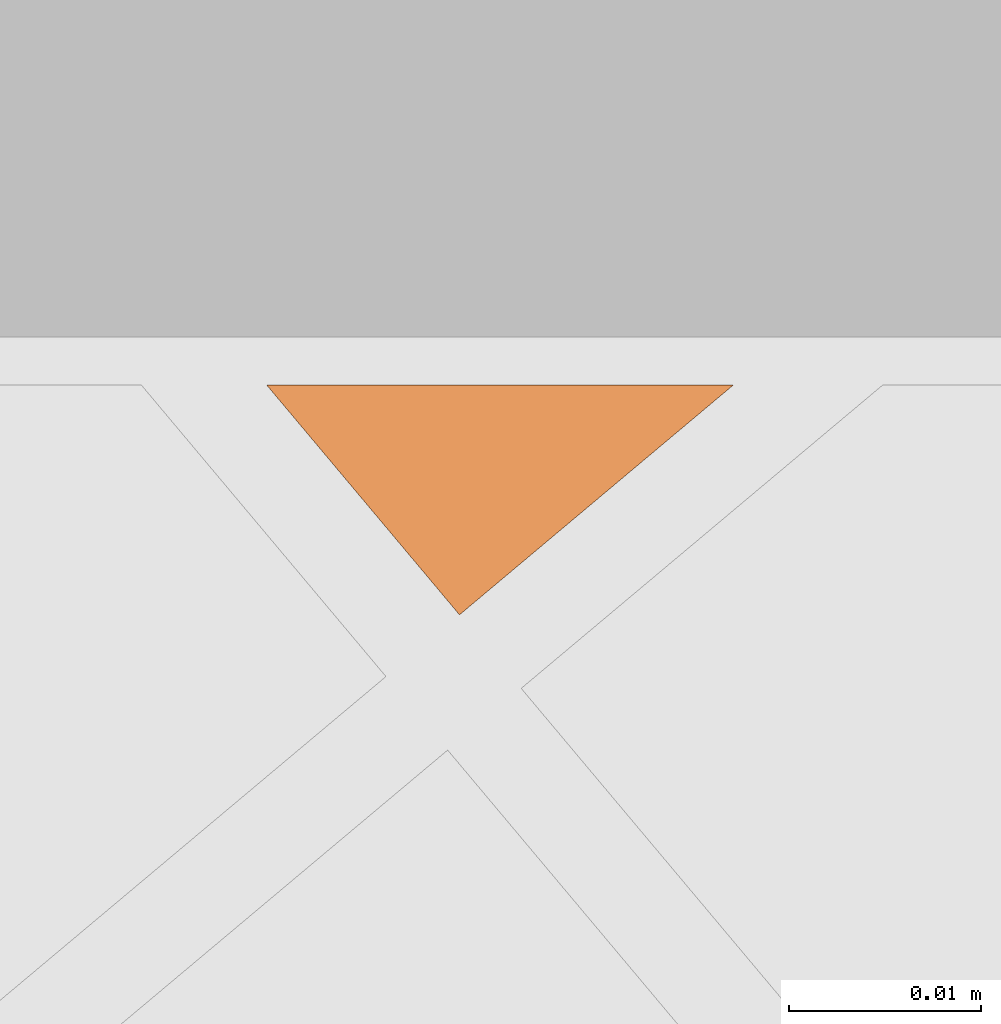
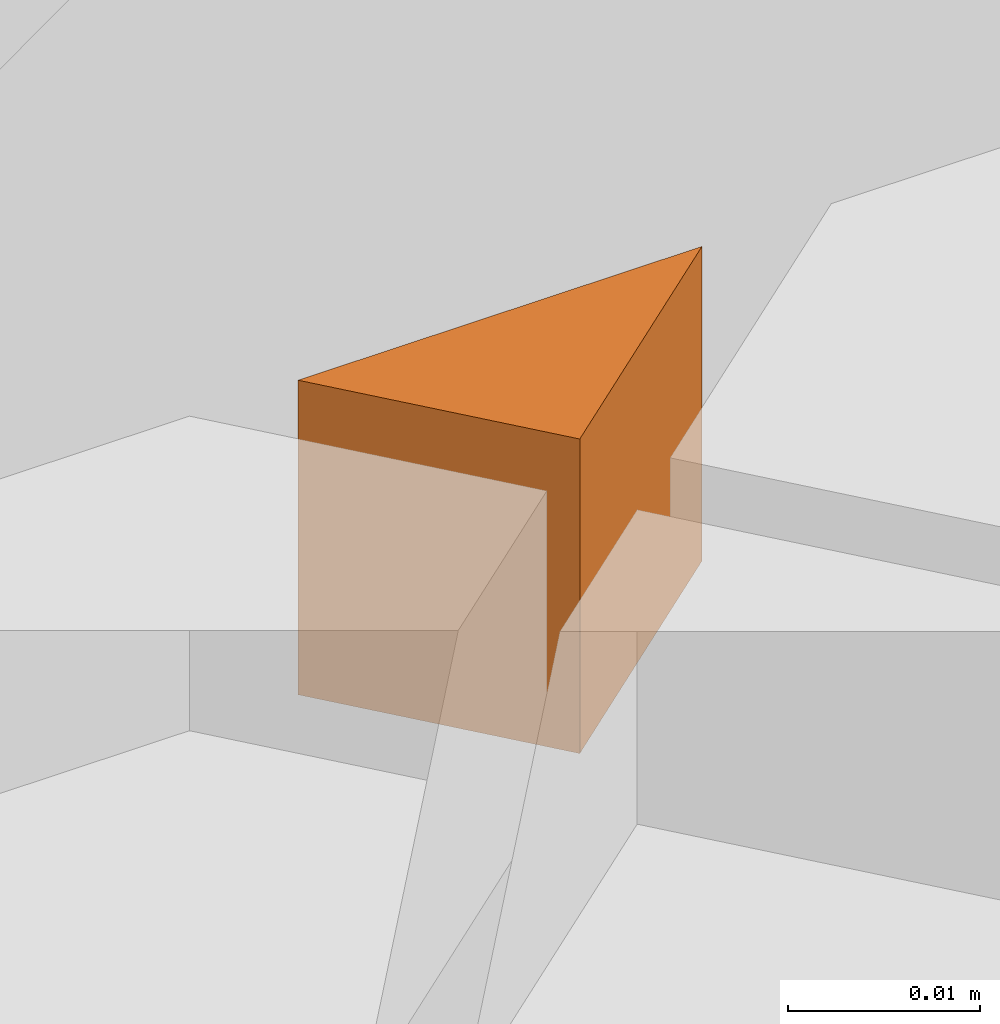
# One storey, part 338 of 338: 1 proxy, 1 element without a shape of its own.
"""IFC2X3 building model written with IfcOpenShell, lengths in millimetres."""

from ifc_helpers import new_model, entity, si_unit, converted_unit, derived_unit, money_unit, direction, frame, origin_with_axes, place, context, subcontext, project, spatial, faceted_brep, material, type_object, element, aggregate, save


model = new_model("IFC2X3")

# Units and contexts
model_context = context("Model", 3, precision=0.01, world=origin_with_axes(), true_north=direction((0.0, 1.0)))
plan_context = context("Plan", 3, precision=0.01, world=origin_with_axes(), true_north=direction((0.0, 1.0)))
body_context = subcontext(model_context, "Body", "Model", "MODEL_VIEW")
ifc_project = project(units=[si_unit("LENGTHUNIT", "METRE", prefix="MILLI"), si_unit("AREAUNIT", "SQUARE_METRE"), si_unit("VOLUMEUNIT", "CUBIC_METRE"), converted_unit("PLANEANGLEUNIT", "DEGREE", entity("IfcPlaneAngleMeasure", 0.0174532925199), si_unit("PLANEANGLEUNIT", "RADIAN"), dimensions=[0, 0, 0, 0, 0, 0, 0]), money_unit("EUR"), converted_unit("TIMEUNIT", "Year", entity("IfcTimeMeasure", 31556926.0), si_unit("TIMEUNIT", "SECOND"), dimensions=[0, 0, 1, 0, 0, 0, 0]), si_unit("MASSUNIT", "GRAM", prefix="KILO"), si_unit("THERMODYNAMICTEMPERATUREUNIT", "DEGREE_CELSIUS"), si_unit("LUMINOUSINTENSITYUNIT", "LUMEN"), si_unit("ENERGYUNIT", "JOULE", prefix="MEGA"), derived_unit("THERMALCONDUCTANCEUNIT", [(si_unit("POWERUNIT", "WATT"), 1), (si_unit("LENGTHUNIT", "METRE"), -1), (si_unit("THERMODYNAMICTEMPERATUREUNIT", "KELVIN"), -1)]), derived_unit("SPECIFICHEATCAPACITYUNIT", [(si_unit("ENERGYUNIT", "JOULE"), 1), (si_unit("MASSUNIT", "GRAM", prefix="KILO"), -1), (si_unit("THERMODYNAMICTEMPERATUREUNIT", "KELVIN"), -1)]), derived_unit("MASSDENSITYUNIT", [(si_unit("MASSUNIT", "GRAM", prefix="KILO"), 1), (si_unit("VOLUMEUNIT", "CUBIC_METRE"), -1)])], contexts=[model_context, plan_context])

# Site, building, storey
site_placement = place(None, origin_with_axes())
site = spatial("IfcSite", under=ifc_project, at=site_placement, Name="Fortuinstraat Woensdrecht", CompositionType="ELEMENT")
building_placement = place(site_placement, origin_with_axes())
building = spatial("IfcBuilding", under=site, at=building_placement, Name="IKC Fortuna", CompositionType="ELEMENT")
storey_placement = place(building_placement, origin_with_axes())
storey = spatial("IfcBuildingStorey", under=building, at=storey_placement, Name="00 begane grond", CompositionType="ELEMENT", Elevation=0.0)

# Covering, proxy
covering_type = type_object("IfcCoveringType", Name="Curtain Wall Type", PredefinedType="CEILING")
covering_placement = place(storey_placement, frame((30245.4600673, -364.084118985, 2810.0), z_axis=(0.0, 0.0, 1.0), x_axis=(1.0, 0.0, 0.0)))
covering = element("IfcCovering", 1, at=covering_placement, inside=storey, type_object=covering_type, Name="45_Plafondafwerking_P02", PredefinedType="CEILING")
ifc_material = material(Name="Gipsplaat")
building_element_proxy_type = type_object("IfcBuildingElementProxyType", Name="Distinct Panel 28 x 23 x 20", PredefinedType="NOTDEFINED")
proxy_placement = place(covering_placement, frame((-3653.82198789, 2035.38611317, 0.0), z_axis=(0.0, 0.0, 1.0), x_axis=(1.0, 0.0, 0.0)))
proxy = element("IfcBuildingElementProxy", 2, at=proxy_placement, type_object=building_element_proxy_type, material=ifc_material, Name="__Panel-D", context=body_context, shape_type="Brep", body=[
    faceted_brep([(12.4514154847, 3.49515865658, -10.0), (-11.8446102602, 3.49520072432, -10.0), (-11.8446102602, 3.49520072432, 10.0), (12.4514154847, 3.49515865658, 10.0), (-1.80608181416, -8.46827714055, -10.0), (-1.80608181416, -8.46827714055, 10.0)], [[[0, 1, 2, 3]], [[0, 4, 1]], [[1, 4, 5, 2]], [[3, 2, 5]], [[4, 0, 3, 5]]]),
])
aggregate(covering, [proxy])

save(model, "model.ifc")
